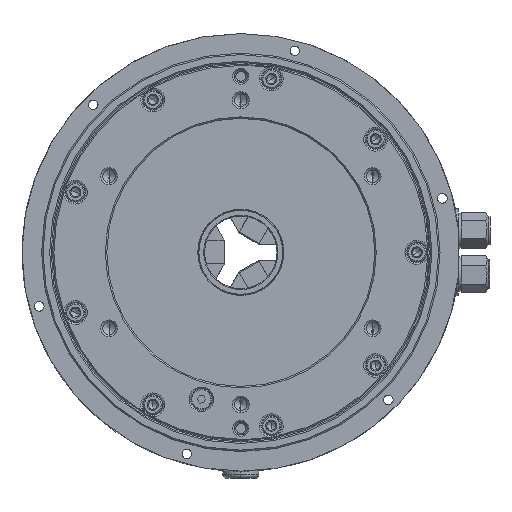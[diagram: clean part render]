
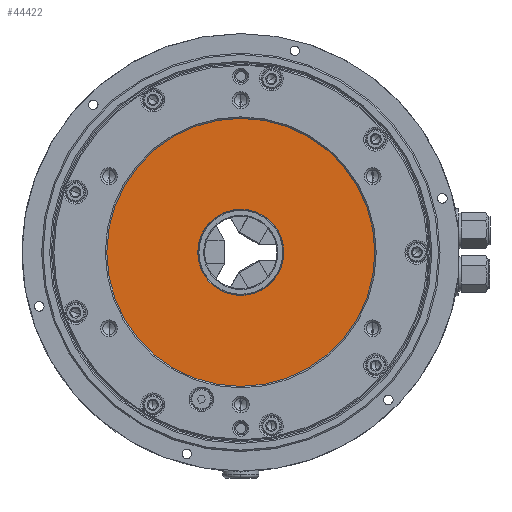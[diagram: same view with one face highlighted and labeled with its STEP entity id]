
A CAD part, left-side view. The second image highlights one B-rep face of the part: STEP entity #44422.
In plain terms, the highlighted planar face has unit normal (-1, 0, 0).
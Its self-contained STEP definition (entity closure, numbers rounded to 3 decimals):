
#3583 = VERTEX_POINT ( 'NONE', #126524 ) ;
#6983 = VERTEX_POINT ( 'NONE', #127966 ) ;
#7798 = VERTEX_POINT ( 'NONE', #79968 ) ;
#10738 = CARTESIAN_POINT ( 'NONE',  ( -133., 92.5, 0. ) ) ;
#15789 = CIRCLE ( 'NONE', #67414, 92.5 ) ;
#16531 = EDGE_CURVE ( 'NONE', #63954, #6983, #15789, .T. ) ;
#20916 = CARTESIAN_POINT ( 'NONE',  ( -133., 0., 0. ) ) ;
#23009 = CIRCLE ( 'NONE', #76884, 29.7 ) ;
#23598 = DIRECTION ( 'NONE',  ( 1., 0., 0. ) ) ;
#29079 = DIRECTION ( 'NONE',  ( 0., 0., 1. ) ) ;
#29786 = FACE_BOUND ( 'NONE', #119077, .T. ) ;
#30769 = DIRECTION ( 'NONE',  ( 0., 0., -1. ) ) ;
#32129 = ORIENTED_EDGE ( 'NONE', *, *, #35619, .T. ) ;
#34175 = DIRECTION ( 'NONE',  ( 0., 0., -1. ) ) ;
#35619 = EDGE_CURVE ( 'NONE', #7798, #3583, #23009, .T. ) ;
#40857 = AXIS2_PLACEMENT_3D ( 'NONE', #10738, #125477, #29079 ) ;
#41766 = DIRECTION ( 'NONE',  ( 1., 0., 0. ) ) ;
#42419 = EDGE_CURVE ( 'NONE', #6983, #63954, #53956, .T. ) ;
#43832 = CARTESIAN_POINT ( 'NONE',  ( -133., 0., 0. ) ) ;
#44422 = ADVANCED_FACE ( 'NONE', ( #29786, #107128 ), #50868, .T. ) ;
#50868 = PLANE ( 'NONE',  #40857 ) ;
#52241 = EDGE_CURVE ( 'NONE', #3583, #7798, #62960, .T. ) ;
#53956 = CIRCLE ( 'NONE', #96676, 92.5 ) ;
#54366 = DIRECTION ( 'NONE',  ( 0., 0., -1. ) ) ;
#58720 = CARTESIAN_POINT ( 'NONE',  ( -133., 0., 0. ) ) ;
#62960 = CIRCLE ( 'NONE', #101227, 29.7 ) ;
#63954 = VERTEX_POINT ( 'NONE', #136090 ) ;
#67414 = AXIS2_PLACEMENT_3D ( 'NONE', #43832, #41766, #54366 ) ;
#74505 = DIRECTION ( 'NONE',  ( 0., 0., -1. ) ) ;
#76884 = AXIS2_PLACEMENT_3D ( 'NONE', #58720, #23598, #34175 ) ;
#79968 = CARTESIAN_POINT ( 'NONE',  ( -133., 0., -29.7 ) ) ;
#90140 = ORIENTED_EDGE ( 'NONE', *, *, #42419, .F. ) ;
#95601 = CARTESIAN_POINT ( 'NONE',  ( -133., 0., 0. ) ) ;
#96676 = AXIS2_PLACEMENT_3D ( 'NONE', #20916, #106738, #30769 ) ;
#101227 = AXIS2_PLACEMENT_3D ( 'NONE', #95601, #127962, #74505 ) ;
#106738 = DIRECTION ( 'NONE',  ( 1., 0., 0. ) ) ;
#107128 = FACE_OUTER_BOUND ( 'NONE', #121899, .T. ) ;
#119077 = EDGE_LOOP ( 'NONE', ( #32129, #130026 ) ) ;
#121899 = EDGE_LOOP ( 'NONE', ( #127782, #90140 ) ) ;
#125477 = DIRECTION ( 'NONE',  ( -1., 0., 0. ) ) ;
#126524 = CARTESIAN_POINT ( 'NONE',  ( -133., 0., 29.7 ) ) ;
#127782 = ORIENTED_EDGE ( 'NONE', *, *, #16531, .F. ) ;
#127962 = DIRECTION ( 'NONE',  ( 1., 0., 0. ) ) ;
#127966 = CARTESIAN_POINT ( 'NONE',  ( -133., 0., 92.5 ) ) ;
#130026 = ORIENTED_EDGE ( 'NONE', *, *, #52241, .T. ) ;
#136090 = CARTESIAN_POINT ( 'NONE',  ( -133., 0., -92.5 ) ) ;
